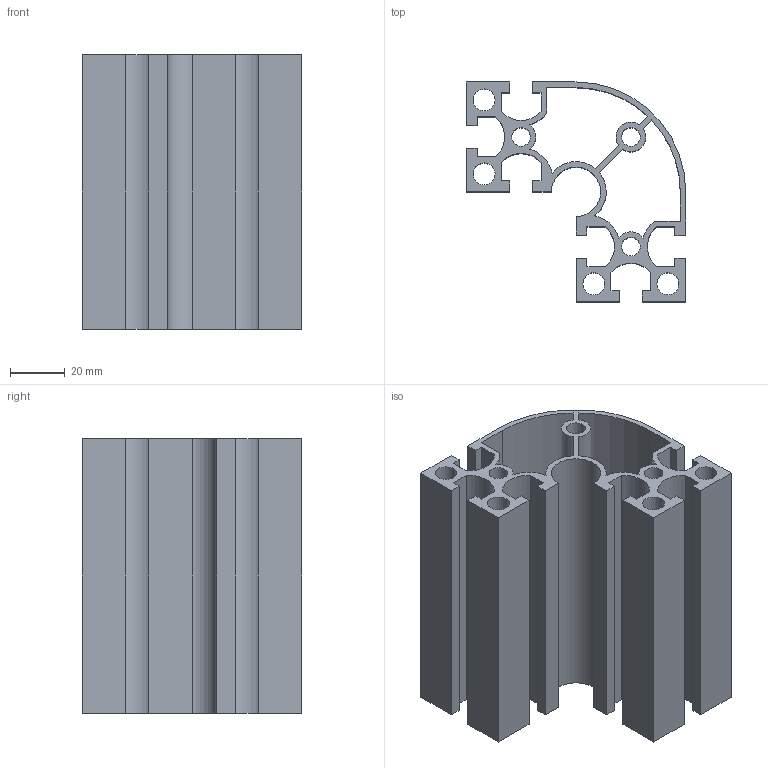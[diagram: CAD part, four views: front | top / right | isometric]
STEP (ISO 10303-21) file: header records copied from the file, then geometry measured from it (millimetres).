
FILE_DESCRIPTION(/* description */ ('Unknown'),/* implementation_level */ '2;1');
FILE_NAME(/* name */ 'NM8840R',/* time_stamp */ '2026-08-31T11:43:13+08:00',/* author */ ('Unknown'),/* organization */ ('Unknown'),/* preprocessor_version */ 'ST-DEVELOPER v16.7',/* originating_system */ 'DEX',/* authorisation */ $);
FILE_SCHEMA (('AUTOMOTIVE_DESIGN {1 0 10303 214 3 1 1}'));
Length unit declared in the file: millimetre
Products named in the file (1): 8840R-
Bounding box: 80 x 80 x 100 mm (x, y, z)
Volume: 132932.6 mm3; surface area: 98866.2 mm2
Topology: 1 solids, 1 shells, 85 faces, 249 edges, 166 vertices
Faces by surface type: plane 58, cylinder 27
Full cylindrical faces by diameter (mm): 6.8 x3, 8 x4
Entity records: 2848 total; most frequent: CARTESIAN_POINT 494, ORIENTED_EDGE 484, DIRECTION 468, EDGE_CURVE 242, LINE 188, VECTOR 188, VERTEX_POINT 166, AXIS2_PLACEMENT_3D 140
